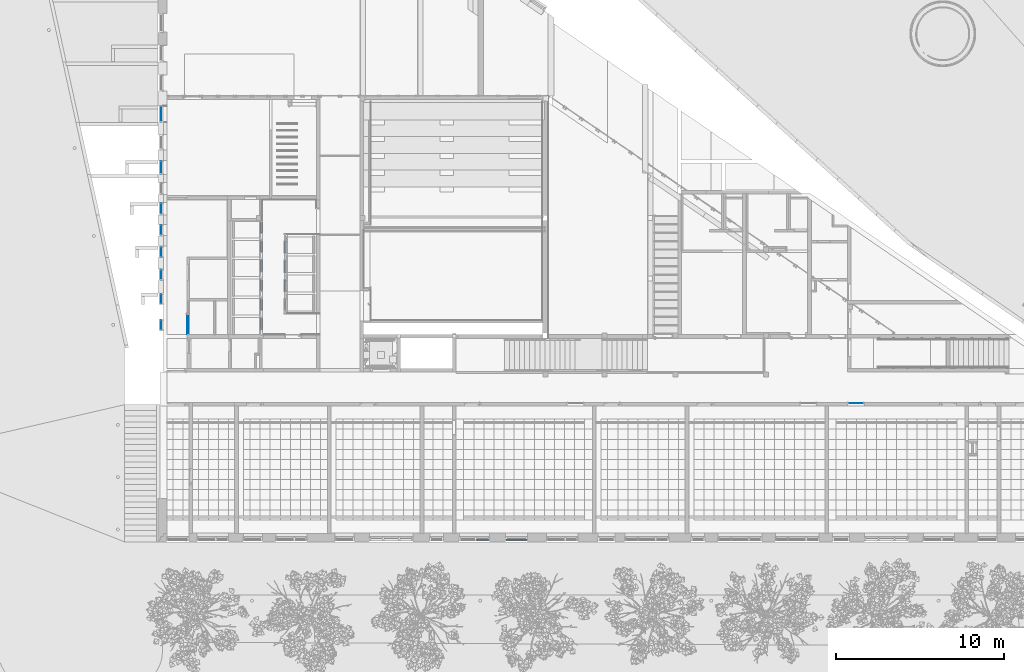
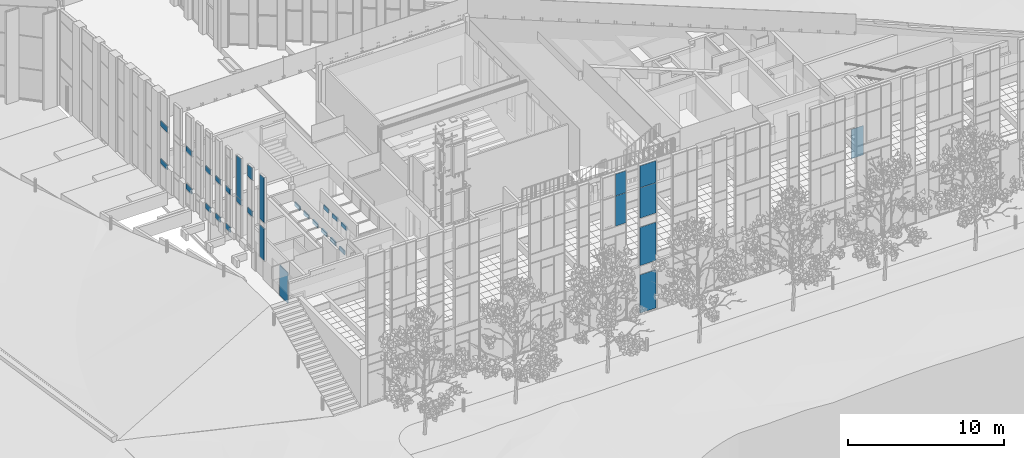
# One storey, part 56 of 246: 33 plates, 14 elements without a shape of their own.
"""IFC2X3 building model written with IfcOpenShell, lengths in millimetres."""

from ifc_helpers import new_model, entity, si_unit, converted_unit, derived_unit, money_unit, direction, frame, origin_with_axes, place, context, subcontext, project, spatial, faceted_brep, source, transform, mapped, material, material_list, type_object, element, aggregate, save


model = new_model("IFC2X3")

# Units and contexts
model_context = context("Model", 3, precision=0.01, world=origin_with_axes(), true_north=direction((0.0, 1.0)))
body_context = subcontext(model_context, "Body", "Model", "MODEL_VIEW")
ifc_project = project(units=[si_unit("LENGTHUNIT", "METRE", prefix="MILLI"), si_unit("AREAUNIT", "SQUARE_METRE"), si_unit("VOLUMEUNIT", "CUBIC_METRE"), converted_unit("PLANEANGLEUNIT", "DEGREE", entity("IfcPlaneAngleMeasure", 0.0174532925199), si_unit("PLANEANGLEUNIT", "RADIAN"), dimensions=[0, 0, 0, 0, 0, 0, 0]), si_unit("SOLIDANGLEUNIT", "STERADIAN"), money_unit("EUR"), converted_unit("TIMEUNIT", "Year", entity("IfcTimeMeasure", 31556926.0), si_unit("TIMEUNIT", "SECOND"), dimensions=[0, 0, 1, 0, 0, 0, 0]), si_unit("MASSUNIT", "GRAM", prefix="KILO"), si_unit("THERMODYNAMICTEMPERATUREUNIT", "DEGREE_CELSIUS"), si_unit("LUMINOUSINTENSITYUNIT", "LUMEN"), si_unit("ENERGYUNIT", "JOULE", prefix="MEGA"), derived_unit("THERMALCONDUCTANCEUNIT", [(si_unit("POWERUNIT", "WATT"), 1), (si_unit("LENGTHUNIT", "METRE"), -1), (si_unit("THERMODYNAMICTEMPERATUREUNIT", "KELVIN"), -1)]), derived_unit("SPECIFICHEATCAPACITYUNIT", [(si_unit("ENERGYUNIT", "JOULE"), 1), (si_unit("MASSUNIT", "GRAM", prefix="KILO"), -1), (si_unit("THERMODYNAMICTEMPERATUREUNIT", "KELVIN"), -1)]), derived_unit("MASSDENSITYUNIT", [(si_unit("MASSUNIT", "GRAM", prefix="KILO"), 1), (si_unit("VOLUMEUNIT", "CUBIC_METRE"), -1)])], contexts=[model_context])

# Site, building, storey
site_placement = place(None, origin_with_axes())
site = spatial("IfcSite", under=ifc_project, at=site_placement, Name="L.Koidula tn 11b", CompositionType="ELEMENT")
building_placement = place(site_placement, origin_with_axes())
building = spatial("IfcBuilding", under=site, at=building_placement, Name="Rakvere Riigigümnaasium", CompositionType="ELEMENT")
storey_placement = place(building_placement, origin_with_axes())
storey = spatial("IfcBuildingStorey", under=building, at=storey_placement, Name="1.korrus 0,00", CompositionType="ELEMENT", Elevation=0.0)

# Curtain wall, plates
curtain_wall_type = type_object("IfcCurtainWallType", Name="Curtain Wall Type", PredefinedType="NOTDEFINED")
curtain_wall_1_placement = place(storey_placement, frame((41170.0073165, 24038.4555472, 1.56205997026e-05), z_axis=(0.0, 0.0, 1.0), x_axis=(1.0, 0.0, 0.0)))
curtain_wall_1 = element("IfcCurtainWall", 1, at=curtain_wall_1_placement, inside=storey, type_object=curtain_wall_type, Name="SUS-01")
ifc_material_1 = material(Name="MDF")
ifc_material_2 = material(Name="Kipsplaat")
ifc_material_3 = material(Name="Klaasvill")
ifc_material_list = material_list([ifc_material_1, ifc_material_2, ifc_material_3])
plate_type_1 = type_object("IfcPlateType", Name="SA-Siseuksesüsteem-Paneel 650 x 300 x 0", PredefinedType="CURTAIN_PANEL")
shared_shape_1 = source(origin_with_axes(), body_context, "Body", "Brep", [
    faceted_brep([(650.0, 300.0, 0.0), (0.0, 300.0, 0.0), (0.0, 300.0, 10.0), (650.0, 300.0, 10.0), (650.0, 0.0, 0.0), (0.0, 0.0, 0.0), (0.0, 0.0, 10.0), (650.0, 0.0, 10.0)], [[[0, 1, 2, 3]], [[0, 4, 5, 1]], [[1, 5, 6, 2]], [[3, 2, 6, 7]], [[4, 0, 3, 7]], [[5, 4, 7, 6]]]),
    faceted_brep([(650.0, 300.0, 12.0), (0.0, 300.0, 12.0), (0.0, 300.0, 25.0), (650.0, 300.0, 25.0), (650.0, 0.0, 12.0), (0.0, 0.0, 12.0), (0.0, 0.0, 25.0), (650.0, 0.0, 25.0)], [[[0, 1, 2, 3]], [[0, 4, 5, 1]], [[1, 5, 6, 2]], [[3, 2, 6, 7]], [[4, 0, 3, 7]], [[5, 4, 7, 6]]]),
    faceted_brep([(650.0, 300.0, 25.0), (0.0, 300.0, 25.0), (0.0, 300.0, 38.0), (650.0, 300.0, 38.0), (650.0, 0.0, 25.0), (0.0, 0.0, 25.0), (0.0, 0.0, 38.0), (650.0, 0.0, 38.0)], [[[0, 1, 2, 3]], [[0, 4, 5, 1]], [[1, 5, 6, 2]], [[3, 2, 6, 7]], [[4, 0, 3, 7]], [[5, 4, 7, 6]]]),
    faceted_brep([(650.0, 300.0, 42.0), (0.0, 300.0, 42.0), (0.0, 300.0, 79.0), (650.0, 300.0, 79.0), (650.0, 0.0, 42.0), (0.0, 0.0, 42.0), (0.0, 0.0, 79.0), (650.0, 0.0, 79.0)], [[[0, 1, 2, 3]], [[0, 4, 5, 1]], [[1, 5, 6, 2]], [[3, 2, 6, 7]], [[4, 0, 3, 7]], [[5, 4, 7, 6]]]),
    faceted_brep([(650.0, 300.0, 84.0), (0.0, 300.0, 84.0), (0.0, 300.0, 92.0), (650.0, 300.0, 92.0), (650.0, 0.0, 84.0), (0.0, 0.0, 84.0), (0.0, 0.0, 92.0), (650.0, 0.0, 92.0)], [[[0, 1, 2, 3]], [[0, 4, 5, 1]], [[1, 5, 6, 2]], [[3, 2, 6, 7]], [[4, 0, 3, 7]], [[5, 4, 7, 6]]]),
])
plate_1_placement = place(curtain_wall_1_placement, frame((0.0, -342.000017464, 2249.99992939), z_axis=(0.0, 0.0, 1.0), x_axis=(0.0, 1.0, 0.0)))
plate_1 = element("IfcPlate", 2, at=plate_1_placement, type_object=plate_type_1, material=ifc_material_list, Name="Panel-SA-Siseuks-023", ObjectType="CURTAIN_PANEL", context=body_context, shape_type="MappedRepresentation", body=[
    mapped(shared_shape_1, transform((325.000017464, 0.0, -150.00000781), x_axis=(-1.0, 0.0, 0.0), y_axis=(0.0, 0.0, 1.0), z_axis=(0.0, 1.0, 0.0))),
])
plate_2_placement = place(curtain_wall_1_placement, frame((0.0, -1472.00003493, 2249.99992939), z_axis=(0.0, 0.0, 1.0), x_axis=(0.0, 1.0, 0.0)))
plate_2 = element("IfcPlate", 3, at=plate_2_placement, type_object=plate_type_1, material=ifc_material_list, Name="Panel-SA-Siseuks-025", ObjectType="CURTAIN_PANEL", context=body_context, shape_type="MappedRepresentation", body=[
    mapped(shared_shape_1, transform((325.0, 0.0, -150.00000781), x_axis=(-1.0, 0.0, 0.0), y_axis=(0.0, 0.0, 1.0), z_axis=(0.0, 1.0, 0.0))),
])
plate_3_placement = place(curtain_wall_1_placement, frame((0.0, -2622.00003493, 2249.99992939), z_axis=(0.0, 0.0, 1.0), x_axis=(0.0, 1.0, 0.0)))
plate_3 = element("IfcPlate", 4, at=plate_3_placement, type_object=plate_type_1, material=ifc_material_list, Name="Panel-SA-Siseuks-027", ObjectType="CURTAIN_PANEL", context=body_context, shape_type="MappedRepresentation", body=[
    mapped(shared_shape_1, transform((325.0, 0.0, -150.00000781), x_axis=(-1.0, 0.0, 0.0), y_axis=(0.0, 0.0, 1.0), z_axis=(0.0, 1.0, 0.0))),
])
plate_4_placement = place(curtain_wall_1_placement, frame((0.0, -3772.00003493, 2249.99992939), z_axis=(0.0, 0.0, 1.0), x_axis=(0.0, 1.0, 0.0)))
plate_4 = element("IfcPlate", 5, at=plate_4_placement, type_object=plate_type_1, material=ifc_material_list, Name="Panel-SA-Siseuks-029", ObjectType="CURTAIN_PANEL", context=body_context, shape_type="MappedRepresentation", body=[
    mapped(shared_shape_1, transform((325.0, 0.0, -150.00000781), x_axis=(-1.0, 0.0, 0.0), y_axis=(0.0, 0.0, 1.0), z_axis=(0.0, 1.0, 0.0))),
])
plate_5_placement = place(curtain_wall_1_placement, frame((0.0, -4922.00003493, 2249.99992939), z_axis=(0.0, 0.0, 1.0), x_axis=(0.0, 1.0, 0.0)))
plate_5 = element("IfcPlate", 6, at=plate_5_placement, type_object=plate_type_1, material=ifc_material_list, Name="Panel-SA-Siseuks-031", ObjectType="CURTAIN_PANEL", context=body_context, shape_type="MappedRepresentation", body=[
    mapped(shared_shape_1, transform((325.0, 0.0, -150.00000781), x_axis=(-1.0, 0.0, 0.0), y_axis=(0.0, 0.0, 1.0), z_axis=(0.0, 1.0, 0.0))),
])
plate_6_placement = place(curtain_wall_1_placement, frame((0.0, -6072.00003493, 2249.99992939), z_axis=(0.0, 0.0, 1.0), x_axis=(0.0, 1.0, 0.0)))
plate_6 = element("IfcPlate", 7, at=plate_6_placement, type_object=plate_type_1, material=ifc_material_list, Name="Panel-SA-Siseuks-033", ObjectType="CURTAIN_PANEL", context=body_context, shape_type="MappedRepresentation", body=[
    mapped(shared_shape_1, transform((325.0, 0.0, -150.00000781), x_axis=(-1.0, 0.0, 0.0), y_axis=(0.0, 0.0, 1.0), z_axis=(0.0, 1.0, 0.0))),
])
aggregate(curtain_wall_1, [plate_1, plate_2, plate_3, plate_4, plate_5, plate_6])

curtain_wall_2_placement = place(storey_placement, frame((42519.9999626, 19079.4634323, 0.0), z_axis=(0.0, 0.0, 1.0), x_axis=(1.0, 0.0, 0.0)))
curtain_wall_2 = element("IfcCurtainWall", 8, at=curtain_wall_2_placement, inside=storey, type_object=curtain_wall_type, Name="SUS-02")
plate_7_placement = place(curtain_wall_2_placement, frame((0.0, 1145.00791999, 2249.99998859), z_axis=(0.0, 0.0, 1.0), x_axis=(0.0, -1.0, 0.0)))
plate_7 = element("IfcPlate", 9, at=plate_7_placement, type_object=plate_type_1, material=ifc_material_list, Name="Panel-SA-Siseuks-024", ObjectType="CURTAIN_PANEL", context=body_context, shape_type="MappedRepresentation", body=[
    mapped(shared_shape_1, transform((325.0, 0.0, -150.0), x_axis=(-1.0, 0.0, 0.0), y_axis=(0.0, 0.0, 1.0), z_axis=(0.0, 1.0, 0.0))),
])
plate_8_placement = place(curtain_wall_2_placement, frame((0.0, 2285.00791999, 2249.99998859), z_axis=(0.0, 0.0, 1.0), x_axis=(0.0, -1.0, 0.0)))
plate_8 = element("IfcPlate", 10, at=plate_8_placement, type_object=plate_type_1, material=ifc_material_list, Name="Panel-SA-Siseuks-026", ObjectType="CURTAIN_PANEL", context=body_context, shape_type="MappedRepresentation", body=[
    mapped(shared_shape_1, transform((325.0, 0.0, -150.0), x_axis=(-1.0, 0.0, 0.0), y_axis=(0.0, 0.0, 1.0), z_axis=(0.0, 1.0, 0.0))),
])
plate_9_placement = place(curtain_wall_2_placement, frame((0.0, 3425.00791999, 2249.99998859), z_axis=(0.0, 0.0, 1.0), x_axis=(0.0, -1.0, 0.0)))
plate_9 = element("IfcPlate", 11, at=plate_9_placement, type_object=plate_type_1, material=ifc_material_list, Name="Panel-SA-Siseuks-028", ObjectType="CURTAIN_PANEL", context=body_context, shape_type="MappedRepresentation", body=[
    mapped(shared_shape_1, transform((325.0, 0.0, -150.0), x_axis=(-1.0, 0.0, 0.0), y_axis=(0.0, 0.0, 1.0), z_axis=(0.0, 1.0, 0.0))),
])
aggregate(curtain_wall_2, [plate_7, plate_8, plate_9])

curtain_wall_3_placement = place(storey_placement, frame((35156.0871538, 22235.4555038, 3003.0), z_axis=(0.0, 0.0, 1.0), x_axis=(1.0, 0.0, 0.0)))
curtain_wall_3 = element("IfcCurtainWall", 12, at=curtain_wall_3_placement, inside=storey, type_object=curtain_wall_type, Name="KLF-04-07")
ifc_material_4 = material(Name="Klaaspakett- taustvärvitud klaas 3x")
plate_type_2 = type_object("IfcPlateType", Name="576 x 421 x 54", PredefinedType="CURTAIN_PANEL")
shared_shape_2 = source(origin_with_axes(), body_context, "Body", "Brep", [
    faceted_brep([(633.000011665, 432.999997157, -27.0), (56.9999405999, 432.999997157, -27.0), (56.9999405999, 432.999997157, 27.0), (633.000011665, 432.999997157, 27.0), (633.000011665, 12.0000043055, -27.0), (56.9999405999, 12.0000043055, -27.0), (56.9999405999, 12.0000043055, 27.0), (633.000011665, 12.0000043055, 27.0)], [[[0, 1, 2, 3]], [[0, 4, 5, 1]], [[1, 5, 6, 2]], [[3, 2, 6, 7]], [[4, 0, 3, 7]], [[5, 4, 7, 6]]]),
])
plate_10_placement = place(curtain_wall_3_placement, frame((0.0, 1.09010507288e-05, 519.50007113), z_axis=(0.0, 0.0, 1.0), x_axis=(0.0, 1.0, 0.0)))
plate_10 = element("IfcPlate", 13, at=plate_10_placement, type_object=plate_type_2, material=ifc_material_4, Name="KLF-04-07-A1", ObjectType="CURTAIN_PANEL", context=body_context, shape_type="MappedRepresentation", body=[
    mapped(shared_shape_2, transform((344.999976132, 0.0, -222.5), x_axis=(-1.0, 0.0, 0.0), y_axis=(0.0, 0.0, 1.0), z_axis=(0.0, 1.0, 0.0))),
])
plate_11_placement = place(curtain_wall_3_placement, frame((0.0, -1.61314979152e-05, 3464.50007113), z_axis=(0.0, 0.0, 1.0), x_axis=(0.0, 1.0, 0.0)))
plate_11 = element("IfcPlate", 14, at=plate_11_placement, type_object=plate_type_2, material=ifc_material_4, Name="KLF-04-07-A2", ObjectType="CURTAIN_PANEL", context=body_context, shape_type="MappedRepresentation", body=[
    mapped(shared_shape_2, transform((345.000003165, 0.0, -222.5), x_axis=(-1.0, 0.0, 0.0), y_axis=(0.0, 0.0, 1.0), z_axis=(0.0, 1.0, 0.0))),
])
aggregate(curtain_wall_3, [plate_10, plate_11])

# Curtain wall, plate
curtain_wall_4_placement = place(storey_placement, frame((35156.0871538, 20885.4555022, 3234.99992887), z_axis=(0.0, 0.0, 1.0), x_axis=(1.0, 0.0, 0.0)))
curtain_wall_4 = element("IfcCurtainWall", 15, at=curtain_wall_4_placement, inside=storey, type_object=curtain_wall_type, Name="KLF-04-08")
plate_12_placement = place(curtain_wall_4_placement, frame((0.0, 0.0, 3232.50007113), z_axis=(0.0, 0.0, 1.0), x_axis=(0.0, 1.0, 0.0)))
plate_12 = element("IfcPlate", 16, at=plate_12_placement, type_object=plate_type_2, material=ifc_material_4, Name="KLF-04-08-Klaasid", ObjectType="CURTAIN_PANEL", context=body_context, shape_type="MappedRepresentation", body=[
    mapped(shared_shape_2, transform((345.000023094, 0.0, -222.5), x_axis=(-1.0, 0.0, 0.0), y_axis=(0.0, 0.0, 1.0), z_axis=(0.0, 1.0, 0.0))),
])

curtain_wall_5_placement = place(storey_placement, frame((35156.0871538, 19435.4554934, 3468.0), z_axis=(0.0, 0.0, 1.0), x_axis=(1.0, 0.0, 0.0)))
curtain_wall_5 = element("IfcCurtainWall", 17, at=curtain_wall_5_placement, inside=storey, type_object=curtain_wall_type, Name="KLF-04-09")
plate_13_placement = place(curtain_wall_5_placement, frame((0.0, 2.3627606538e-05, 2999.50007113), z_axis=(0.0, 0.0, 1.0), x_axis=(0.0, 1.0, 0.0)))
plate_13 = element("IfcPlate", 18, at=plate_13_placement, type_object=plate_type_2, material=ifc_material_4, Name="KLF-04-09-Klaasid", ObjectType="CURTAIN_PANEL", context=body_context, shape_type="MappedRepresentation", body=[
    mapped(shared_shape_2, transform((345.000008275, 0.0, -222.5), x_axis=(-1.0, 0.0, 0.0), y_axis=(0.0, 0.0, 1.0), z_axis=(0.0, 1.0, 0.0))),
])

curtain_wall_6_placement = place(storey_placement, frame((76489.9798826, 13240.4508952, 0.0), z_axis=(0.0, 0.0, 1.0), x_axis=(1.0, 0.0, 0.0)))
curtain_wall_6 = element("IfcCurtainWall", 19, at=curtain_wall_6_placement, inside=storey, type_object=curtain_wall_type, Name="SKLF-09")
ifc_material_5 = material(Name="VKR-05_Klaas")
plate_type_3 = type_object("IfcPlateType", Name="Distinct Panel 900 x 2300 x 10", PredefinedType="CURTAIN_PANEL")
shared_shape_3 = source(origin_with_axes(), body_context, "Body", "Brep", [
    faceted_brep([(-950.019788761, 2350.0, -11.0), (-950.019788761, 2350.0, 1.0), (-50.0197887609, 2350.0, 1.0), (-50.0197887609, 2350.0, -11.0), (-950.019788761, 50.0, -11.0), (-950.019788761, 50.0, 1.0), (-50.0197887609, 50.0, 1.0), (-50.0197887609, 50.0, -11.0)], [[[0, 1, 2, 3]], [[4, 5, 1, 0]], [[1, 5, 6, 2]], [[3, 2, 6, 7]], [[0, 3, 7, 4]], [[7, 6, 5, 4]]]),
])
plate_14_placement = place(curtain_wall_6_placement, frame((0.0, 0.0, 1200.0), z_axis=(0.0, 0.0, 1.0), x_axis=(-1.0, 0.0, 0.0)))
plate_14 = element("IfcPlate", 20, at=plate_14_placement, type_object=plate_type_3, material=ifc_material_5, Name="SKLF-17-klaas", ObjectType="CURTAIN_PANEL", context=body_context, shape_type="MappedRepresentation", body=[
    mapped(shared_shape_3, transform((500.019791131, 0.0, -1200.0), x_axis=(1.0, 0.0, 0.0), y_axis=(0.0, 0.0, 1.0), z_axis=(0.0, -1.0, 0.0))),
])
aggregate(curtain_wall_6, [plate_14])

# Curtain wall, plates
curtain_wall_7_placement = place(storey_placement, frame((35156.0871538, 30435.4555151, 1604.94683277), z_axis=(0.0, 0.0, 1.0), x_axis=(1.0, 0.0, 0.0)))
curtain_wall_7 = element("IfcCurtainWall", 21, at=curtain_wall_7_placement, inside=storey, type_object=curtain_wall_type, Name="KLF-04-01")
plate_type_4 = type_object("IfcPlateType", Name="876 x 421 x 54", PredefinedType="CURTAIN_PANEL")
shared_shape_4 = source(origin_with_axes(), body_context, "Body", "Brep", [
    faceted_brep([(982.872215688, 432.999996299, -27.0), (106.872086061, 432.999996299, -27.0), (106.872086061, 432.999996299, 27.0), (982.872215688, 432.999996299, 27.0), (982.872215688, 12.0000002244, -27.0), (106.872086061, 12.0000002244, -27.0), (106.872086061, 12.0000002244, 27.0), (982.872215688, 12.0000002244, 27.0)], [[[0, 1, 2, 3]], [[0, 4, 5, 1]], [[1, 5, 6, 2]], [[3, 2, 6, 7]], [[4, 0, 3, 7]], [[5, 4, 7, 6]]]),
])
plate_15_placement = place(curtain_wall_7_placement, frame((0.0, 0.0, 1917.50006988), z_axis=(0.0, 0.0, 1.0), x_axis=(0.0, 1.0, 0.0)))
plate_15 = element("IfcPlate", 22, at=plate_15_placement, type_object=plate_type_4, material=ifc_material_4, Name="KLF-04-01-Klaasid", ObjectType="CURTAIN_PANEL", context=body_context, shape_type="MappedRepresentation", body=[
    mapped(shared_shape_4, transform((544.872150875, 0.0, -222.5), x_axis=(-1.0, 0.0, 0.0), y_axis=(0.0, 0.0, 1.0), z_axis=(0.0, 1.0, 0.0))),
])
plate_16_placement = place(curtain_wall_7_placement, frame((0.0, -5.43342437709e-06, 4862.50006988), z_axis=(0.0, 0.0, 1.0), x_axis=(0.0, 1.0, 0.0)))
plate_16 = element("IfcPlate", 23, at=plate_16_placement, type_object=plate_type_4, material=ifc_material_4, Name="KLF-04-01-Klaasid", ObjectType="CURTAIN_PANEL", context=body_context, shape_type="MappedRepresentation", body=[
    mapped(shared_shape_4, transform((544.872156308, 0.0, -222.5), x_axis=(-1.0, 0.0, 0.0), y_axis=(0.0, 0.0, 1.0), z_axis=(0.0, 1.0, 0.0))),
])
aggregate(curtain_wall_7, [plate_15, plate_16])

curtain_wall_8_placement = place(storey_placement, frame((35156.0871538, 27260.4554897, 2070.0), z_axis=(0.0, 0.0, 1.0), x_axis=(1.0, 0.0, 0.0)))
curtain_wall_8 = element("IfcCurtainWall", 24, at=curtain_wall_8_placement, inside=storey, type_object=curtain_wall_type, Name="KLF-04-03")
plate_type_5 = type_object("IfcPlateType", Name="726 x 421 x 54", PredefinedType="CURTAIN_PANEL")
shared_shape_5 = source(origin_with_axes(), body_context, "Body", "Brep", [
    faceted_brep([(883.000114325, 432.999995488, -27.0), (157.000121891, 432.999995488, -27.0), (157.000121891, 432.999995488, 27.0), (883.000114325, 432.999995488, 27.0), (883.000114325, 11.9999998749, -27.0), (157.000121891, 11.9999998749, -27.0), (157.000121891, 11.9999998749, 27.0), (883.000114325, 11.9999998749, 27.0)], [[[0, 1, 2, 3]], [[0, 4, 5, 1]], [[1, 5, 6, 2]], [[3, 2, 6, 7]], [[4, 0, 3, 7]], [[5, 4, 7, 6]]]),
])
plate_17_placement = place(curtain_wall_8_placement, frame((0.0, 0.0, 1452.50005204), z_axis=(0.0, 0.0, 1.0), x_axis=(0.0, 1.0, 0.0)))
plate_17 = element("IfcPlate", 25, at=plate_17_placement, type_object=plate_type_5, material=ifc_material_4, Name="KLF-04-03-Klaasid", ObjectType="CURTAIN_PANEL", context=body_context, shape_type="MappedRepresentation", body=[
    mapped(shared_shape_5, transform((520.000118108, 0.0, -222.5), x_axis=(-1.0, 0.0, 0.0), y_axis=(0.0, 0.0, 1.0), z_axis=(0.0, 1.0, 0.0))),
])
plate_18_placement = place(curtain_wall_8_placement, frame((0.0, -8.43357383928e-07, 4397.50005204), z_axis=(0.0, 0.0, 1.0), x_axis=(0.0, 1.0, 0.0)))
plate_18 = element("IfcPlate", 26, at=plate_18_placement, type_object=plate_type_5, material=ifc_material_4, Name="KLF-04-03-Klaasid", ObjectType="CURTAIN_PANEL", context=body_context, shape_type="MappedRepresentation", body=[
    mapped(shared_shape_5, transform((520.000118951, 0.0, -222.5), x_axis=(-1.0, 0.0, 0.0), y_axis=(0.0, 0.0, 1.0), z_axis=(0.0, 1.0, 0.0))),
])
aggregate(curtain_wall_8, [plate_17, plate_18])

curtain_wall_9_placement = place(storey_placement, frame((35156.0871538, 24810.4554726, 2540.0), z_axis=(0.0, 0.0, 1.0), x_axis=(1.0, 0.0, 0.0)))
curtain_wall_9 = element("IfcCurtainWall", 27, at=curtain_wall_9_placement, inside=storey, type_object=curtain_wall_type, Name="KLF-04-05")
plate_type_6 = type_object("IfcPlateType", Name="626 x 421 x 54", PredefinedType="CURTAIN_PANEL")
shared_shape_6 = source(origin_with_axes(), body_context, "Body", "Brep", [
    faceted_brep([(783.00005934, 432.999998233, -27.0), (157.000048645, 432.999998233, -27.0), (157.000048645, 432.999998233, 27.0), (783.00005934, 432.999998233, 27.0), (783.00005934, 12.000004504, -27.0), (157.000048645, 12.000004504, -27.0), (157.000048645, 12.000004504, 27.0), (783.00005934, 12.000004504, 27.0)], [[[0, 1, 2, 3]], [[0, 4, 5, 1]], [[1, 5, 6, 2]], [[3, 2, 6, 7]], [[4, 0, 3, 7]], [[5, 4, 7, 6]]]),
])
plate_19_placement = place(curtain_wall_9_placement, frame((0.0, 0.0, 982.50005204), z_axis=(0.0, 0.0, 1.0), x_axis=(0.0, 1.0, 0.0)))
plate_19 = element("IfcPlate", 28, at=plate_19_placement, type_object=plate_type_6, material=ifc_material_4, Name="KLF-04-05-Klaasid", ObjectType="CURTAIN_PANEL", context=body_context, shape_type="MappedRepresentation", body=[
    mapped(shared_shape_6, transform((470.000053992, 0.0, -222.5), x_axis=(-1.0, 0.0, 0.0), y_axis=(0.0, 0.0, 1.0), z_axis=(0.0, 1.0, 0.0))),
])
plate_20_placement = place(curtain_wall_9_placement, frame((0.0, 0.0, 3927.50005204), z_axis=(0.0, 0.0, 1.0), x_axis=(0.0, 1.0, 0.0)))
plate_20 = element("IfcPlate", 29, at=plate_20_placement, type_object=plate_type_6, material=ifc_material_4, Name="KLF-04-05-Klaasid", ObjectType="CURTAIN_PANEL", context=body_context, shape_type="MappedRepresentation", body=[
    mapped(shared_shape_6, transform((470.000053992, 0.0, -222.5), x_axis=(-1.0, 0.0, 0.0), y_axis=(0.0, 0.0, 1.0), z_axis=(0.0, 1.0, 0.0))),
])
aggregate(curtain_wall_9, [plate_19, plate_20])

curtain_wall_10_placement = place(storey_placement, frame((35156.0871538, 23535.4555553, 2770.0), z_axis=(0.0, 0.0, 1.0), x_axis=(1.0, 0.0, 0.0)))
curtain_wall_10 = element("IfcCurtainWall", 30, at=curtain_wall_10_placement, inside=storey, type_object=curtain_wall_type, Name="KLF-04-06")
shared_shape_7 = source(origin_with_axes(), body_context, "Body", "Brep", [
    faceted_brep([(732.999923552, 432.99999986, -27.0), (156.999984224, 432.99999986, -27.0), (156.999984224, 432.99999986, 27.0), (732.999923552, 432.99999986, 27.0), (732.999884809, 12.0000019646, -27.0), (156.999984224, 12.0000019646, -27.0), (156.999984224, 12.0000019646, 27.0), (732.999884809, 12.0000019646, 27.0)], [[[0, 1, 2, 3]], [[0, 4, 5, 1]], [[1, 5, 6, 2]], [[3, 2, 6, 7]], [[4, 0, 3, 7]], [[5, 4, 7, 6]]]),
])
plate_21_placement = place(curtain_wall_10_placement, frame((0.0, -1.1309200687e-05, 3697.50005204), z_axis=(0.0, 0.0, 1.0), x_axis=(0.0, 1.0, 0.0)))
plate_21 = element("IfcPlate", 31, at=plate_21_placement, type_object=plate_type_2, material=ifc_material_4, Name="KLF-04-06-Klaasid", ObjectType="CURTAIN_PANEL", context=body_context, shape_type="MappedRepresentation", body=[
    mapped(shared_shape_7, transform((444.999942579, 0.0, -222.5), x_axis=(-1.0, 0.0, 0.0), y_axis=(0.0, 0.0, 1.0), z_axis=(0.0, 1.0, 0.0))),
])
plate_22_placement = place(curtain_wall_10_placement, frame((0.0, 0.0, 752.50005204), z_axis=(0.0, 0.0, 1.0), x_axis=(0.0, 1.0, 0.0)))
plate_22 = element("IfcPlate", 32, at=plate_22_placement, type_object=plate_type_2, material=ifc_material_4, Name="KLF-04-06-Klaasid", ObjectType="CURTAIN_PANEL", context=body_context, shape_type="MappedRepresentation", body=[
    mapped(shared_shape_7, transform((444.99993127, 0.0, -222.5), x_axis=(-1.0, 0.0, 0.0), y_axis=(0.0, 0.0, 1.0), z_axis=(0.0, 1.0, 0.0))),
])
aggregate(curtain_wall_10, [plate_21, plate_22])

curtain_wall_11_placement = place(storey_placement, frame((54287.5000684, 5111.45334637, -1.61944652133e-05), z_axis=(0.0, 0.0, 1.0), x_axis=(1.0, 0.0, 0.0)))
curtain_wall_11 = element("IfcCurtainWall", 33, at=curtain_wall_11_placement, inside=storey, type_object=curtain_wall_type, Name="KLF-05-2B")
ifc_material_6 = material(Name="Klaaspakett 3x")
plate_type_7 = type_object("IfcPlateType", Name="Distinct Panel 756 x 2351 x 65", PredefinedType="CURTAIN_PANEL")
plate_23_placement = place(curtain_wall_11_placement, frame((-5.86924642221e-06, 0.0, 8652.5), z_axis=(0.0, 0.0, 1.0), x_axis=(-1.0, 0.0, 0.0)))
plate_23 = element("IfcPlate", 34, at=plate_23_placement, type_object=plate_type_7, material=ifc_material_6, Name="KLF-05-2B-Klaasid", ObjectType="CURTAIN_PANEL", context=body_context, shape_type="Brep", body=[
    faceted_brep([(-365.500037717, -32.5, 1175.50000149), (390.500045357, -32.5, 1175.50000149), (390.500045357, 32.5, 1175.50000149), (-365.500037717, 32.5, 1175.50000149), (-365.500073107, -32.5, -1175.50000149), (390.500045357, -32.5, -1175.50000149), (390.500045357, 32.5, -1175.50000149), (-365.500073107, 32.5, -1175.50000149)], [[[0, 1, 2, 3]], [[0, 4, 5, 1]], [[1, 5, 6, 2]], [[3, 2, 6, 7]], [[4, 0, 3, 7]], [[5, 4, 7, 6]]]),
])
plate_type_8 = type_object("IfcPlateType", Name="Distinct Panel 756 x 1701 x 65", PredefinedType="CURTAIN_PANEL")
plate_24_placement = place(curtain_wall_11_placement, frame((-1.17384786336e-05, 0.0, 10714.999916), z_axis=(0.0, 0.0, 1.0), x_axis=(-1.0, 0.0, 0.0)))
plate_24 = element("IfcPlate", 35, at=plate_24_placement, type_object=plate_type_8, material=ifc_material_6, Name="KLF-05-2B-Klaasid", ObjectType="CURTAIN_PANEL", context=body_context, shape_type="Brep", body=[
    faceted_brep([(-365.500038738, -32.5, 837.999913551), (390.500029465, -32.5, 837.999913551), (390.500029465, 32.5, 837.999913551), (-365.500038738, 32.5, 837.999913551), (-365.500038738, -32.5, -862.999907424), (390.500029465, -32.5, -862.999907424), (390.500029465, 32.5, -862.999907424), (-365.500038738, 32.5, -862.999907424)], [[[0, 1, 2, 3]], [[0, 4, 5, 1]], [[1, 5, 6, 2]], [[3, 2, 6, 7]], [[4, 0, 3, 7]], [[5, 4, 7, 6]]]),
])
aggregate(curtain_wall_11, [plate_23, plate_24])

curtain_wall_12_placement = place(storey_placement, frame((35156.0871538, 17885.4554584, 3720.0), z_axis=(0.0, 0.0, 1.0), x_axis=(1.0, 0.0, 0.0)))
curtain_wall_12 = element("IfcCurtainWall", 36, at=curtain_wall_12_placement, inside=storey, type_object=curtain_wall_type, Name="KLF-04-10")
plate_type_9 = type_object("IfcPlateType", Name="Distinct Panel 576 x 3460 x 54", PredefinedType="CURTAIN_PANEL")
plate_25_placement = place(curtain_wall_12_placement, frame((0.0, 0.0, 4749.61650411), z_axis=(0.0, 0.0, 1.0), x_axis=(0.0, 1.0, 0.0)))
plate_25 = element("IfcPlate", 37, at=plate_25_placement, type_object=plate_type_9, material=ifc_material_6, Name="KLF-04-10-Klaasid", ObjectType="CURTAIN_PANEL", context=body_context, shape_type="Brep", body=[
    faceted_brep([(-287.999962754, -27.0, 1762.68259218), (287.99997898, -27.0, 1702.14257745), (287.99997898, 27.0, 1702.14257745), (-287.999962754, 27.0, 1762.68259218), (-287.999962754, -27.0, -1757.61641644), (287.999925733, -27.0, -1757.61641644), (287.999925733, 27.0, -1757.61641644), (-287.999962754, 27.0, -1757.61641644)], [[[0, 1, 2, 3]], [[0, 4, 5, 1]], [[1, 5, 6, 2]], [[3, 2, 6, 7]], [[4, 0, 3, 7]], [[5, 4, 7, 6]]]),
])
plate_type_10 = type_object("IfcPlateType", Name="Distinct Panel 576 x 2476 x 54", PredefinedType="CURTAIN_PANEL")
plate_26_placement = place(curtain_wall_12_placement, frame((0.0, 8.12072187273e-06, 1262.50003557), z_axis=(0.0, 0.0, 1.0), x_axis=(0.0, 1.0, 0.0)))
plate_26 = element("IfcPlate", 38, at=plate_26_placement, type_object=plate_type_10, material=ifc_material_6, Name="KLF-04-10-Klaasid", ObjectType="CURTAIN_PANEL", context=body_context, shape_type="Brep", body=[
    faceted_brep([(-287.999981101, -27.0, 1250.50003187), (287.99993268, -27.0, 1250.50003187), (287.99993268, 27.0, 1250.50003187), (-287.999981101, 27.0, 1250.50003187), (-287.999981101, -27.0, -1225.5000524), (288.000045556, -27.0, -1225.5000524), (288.000045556, 27.0, -1225.5000524), (-287.999981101, 27.0, -1225.5000524)], [[[0, 1, 2, 3]], [[0, 4, 5, 1]], [[1, 5, 6, 2]], [[3, 2, 6, 7]], [[4, 0, 3, 7]], [[5, 4, 7, 6]]]),
])
aggregate(curtain_wall_12, [plate_25, plate_26])

# Plate
plate_type_11 = type_object("IfcPlateType", Name="Distinct Panel 576 x 3154 x 54", PredefinedType="CURTAIN_PANEL")
plate_27_placement = place(curtain_wall_4_placement, frame((0.0, 0.000106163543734, 5071.96018388), z_axis=(0.0, 0.0, 1.0), x_axis=(0.0, 1.0, 0.0)))
plate_27 = element("IfcPlate", 39, at=plate_27_placement, type_object=plate_type_11, material=ifc_material_6, Name="KLF-04-08-Klaasid", ObjectType="CURTAIN_PANEL", context=body_context, shape_type="Brep", body=[
    faceted_brep([(-287.999732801, -27.0, 1610.02634705), (287.999937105, -27.0, 1549.48627861), (287.999937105, 27.0, 1549.48627861), (-287.999732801, 27.0, 1610.02634705), (-288.000073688, -27.0, -1604.96009224), (287.999888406, -27.0, -1604.96009224), (287.999888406, 27.0, -1604.96009224), (-288.000073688, 27.0, -1604.96009224)], [[[0, 1, 2, 3]], [[0, 4, 5, 1]], [[1, 5, 6, 2]], [[3, 2, 6, 7]], [[4, 0, 3, 7]], [[5, 4, 7, 6]]]),
])

aggregate(curtain_wall_4, [plate_12, plate_27])

plate_type_12 = type_object("IfcPlateType", Name="Distinct Panel 576 x 907 x 54", PredefinedType="CURTAIN_PANEL")
plate_28_placement = place(curtain_wall_5_placement, frame((0.0, 0.0, 6115.16073995), z_axis=(0.0, 0.0, 1.0), x_axis=(0.0, 1.0, 0.0)))
plate_28 = element("IfcPlate", 40, at=plate_28_placement, type_object=plate_type_12, material=ifc_material_6, Name="KLF-04-09-Klaasid", ObjectType="CURTAIN_PANEL", context=body_context, shape_type="Brep", body=[
    faceted_brep([(-288.000044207, -27.0, 486.226902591), (288.000017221, -27.0, 425.686814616), (288.000017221, 27.0, 425.686814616), (-288.000044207, 27.0, 486.226902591), (-288.000044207, -27.0, -481.160665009), (288.000078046, -27.0, -481.160665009), (288.000078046, 27.0, -481.160665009), (-288.000044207, 27.0, -481.160665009)], [[[0, 1, 2, 3]], [[0, 4, 5, 1]], [[1, 5, 6, 2]], [[3, 2, 6, 7]], [[4, 0, 3, 7]], [[5, 4, 7, 6]]]),
])

aggregate(curtain_wall_5, [plate_28, plate_13])

# Curtain wall, plates
curtain_wall_13_placement = place(storey_placement, frame((56300.0000472, 5111.45334637, -1.61944652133e-05), z_axis=(0.0, 0.0, 1.0), x_axis=(1.0, 0.0, 0.0)))
curtain_wall_13 = element("IfcCurtainWall", 41, at=curtain_wall_13_placement, inside=storey, type_object=curtain_wall_type, Name="KLF-05-1E")
ifc_material_7 = material(Name="Klaaspakett 3x ribikardinatega")
plate_type_13 = type_object("IfcPlateType", Name="Distinct Panel 1206 x 2351 x 65", PredefinedType="CURTAIN_PANEL")
plate_29_placement = place(curtain_wall_13_placement, frame((0.0, 0.0, 8652.5), z_axis=(0.0, 0.0, 1.0), x_axis=(-1.0, 0.0, 0.0)))
plate_29 = element("IfcPlate", 42, at=plate_29_placement, type_object=plate_type_13, material=ifc_material_7, Name="KLF-05-4A-Klaasid", ObjectType="CURTAIN_PANEL", context=body_context, shape_type="Brep", body=[
    faceted_brep([(-602.999996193, -32.5, 1175.50000149), (603.000066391, -32.5, 1175.50000149), (603.000066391, 32.5, 1175.50000149), (-602.999996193, 32.5, 1175.50000149), (-603.000102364, -32.5, -1175.50000149), (603.000066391, -32.5, -1175.50000149), (603.000066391, 32.5, -1175.50000149), (-603.000102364, 32.5, -1175.50000149)], [[[0, 1, 2, 3]], [[0, 4, 5, 1]], [[1, 5, 6, 2]], [[3, 2, 6, 7]], [[4, 0, 3, 7]], [[5, 4, 7, 6]]]),
])
plate_type_14 = type_object("IfcPlateType", Name="Distinct Panel 1206 x 2991 x 65", PredefinedType="CURTAIN_PANEL")
plate_30_placement = place(curtain_wall_13_placement, frame((1.86863076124e-05, 0.0, 5252.5), z_axis=(0.0, 0.0, 1.0), x_axis=(-1.0, 0.0, 0.0)))
plate_30 = element("IfcPlate", 43, at=plate_30_placement, type_object=plate_type_14, material=ifc_material_7, Name="KLF-05-4A-Klaasid", ObjectType="CURTAIN_PANEL", context=body_context, shape_type="Brep", body=[
    faceted_brep([(-603.000047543, -32.5, 1495.49998659), (603.000087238, -32.5, 1495.49998659), (603.000087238, 32.5, 1495.49998659), (-603.000047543, 32.5, 1495.49998659), (-603.000047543, -32.5, -1495.49998659), (603.000087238, -32.5, -1495.49998659), (603.000087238, 32.5, -1495.49998659), (-603.000047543, 32.5, -1495.49998659)], [[[0, 1, 2, 3]], [[0, 4, 5, 1]], [[1, 5, 6, 2]], [[3, 2, 6, 7]], [[4, 0, 3, 7]], [[5, 4, 7, 6]]]),
])
plate_type_15 = type_object("IfcPlateType", Name="Distinct Panel 1206 x 628 x 65", PredefinedType="CURTAIN_PANEL")
plate_31_placement = place(curtain_wall_13_placement, frame((1.86863147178e-05, 0.0, 1813.33333333), z_axis=(0.0, 0.0, 1.0), x_axis=(-1.0, 0.0, 0.0)))
plate_31 = element("IfcPlate", 44, at=plate_31_placement, type_object=plate_type_15, material=ifc_material_7, Name="KLF-05-4A-Klaasid", ObjectType="CURTAIN_PANEL", context=body_context, shape_type="Brep", body=[
    faceted_brep([(-603.000062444, -32.5, 1214.66667382), (603.000056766, -32.5, 1214.66667382), (603.000056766, 32.5, 1214.66667382), (-603.000062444, 32.5, 1214.66667382), (-603.000062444, -32.5, 586.66668574), (-603.000062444, -32.5, -1776.33332141), (603.000056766, -32.5, -1776.33332141), (603.000056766, -32.5, 586.66668574), (603.000056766, 32.5, 586.66668574), (603.000056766, 32.5, -1776.33332141), (-603.000062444, 32.5, -1776.33332141), (-603.000062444, 32.5, 586.66668574)], [[[0, 1, 2, 3]], [[0, 4, 5, 6, 7, 1]], [[1, 7, 8, 2]], [[3, 2, 8, 9, 10, 11]], [[4, 0, 3, 11]], [[5, 4, 11, 10]], [[6, 5, 10, 9]], [[7, 6, 9, 8]]]),
])
plate_type_16 = type_object("IfcPlateType", Name="Distinct Panel 1206 x 1701 x 65", PredefinedType="CURTAIN_PANEL")
plate_32_placement = place(curtain_wall_13_placement, frame((-5.8329874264e-06, 0.0, 10715.0000206), z_axis=(0.0, 0.0, 1.0), x_axis=(-1.0, 0.0, 0.0)))
plate_32 = element("IfcPlate", 45, at=plate_32_placement, type_object=plate_type_16, material=ifc_material_7, Name="KLF-05-0A-Klaasid", ObjectType="CURTAIN_PANEL", context=body_context, shape_type="Brep", body=[
    faceted_brep([(-603.000064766, -32.5, 838.000013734), (603.000037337, -32.5, 838.000013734), (603.000037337, 32.5, 838.000013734), (-603.000064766, 32.5, 838.000013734), (-603.000012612, -32.5, -863.000010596), (603.000037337, -32.5, -863.000010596), (603.000037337, 32.5, -863.000010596), (-603.000012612, 32.5, -863.000010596)], [[[0, 1, 2, 3]], [[0, 4, 5, 1]], [[1, 5, 6, 2]], [[3, 2, 6, 7]], [[4, 0, 3, 7]], [[5, 4, 7, 6]]]),
])
aggregate(curtain_wall_13, [plate_29, plate_30, plate_31, plate_32])

# Curtain wall, plate
curtain_wall_14_placement = place(storey_placement, frame((36749.0000697, 18870.4397072, 0.0), z_axis=(0.0, 0.0, 1.0), x_axis=(1.0, 0.0, 0.0)))
curtain_wall_14 = element("IfcCurtainWall", 46, at=curtain_wall_14_placement, inside=storey, type_object=curtain_wall_type, Name="SKLF-06")
plate_type_17 = type_object("IfcPlateType", Name="Siseklaasfassaad - Klaas-Doubleline30 1095 x 2370 x 17", PredefinedType="CURTAIN_PANEL")
plate_33_placement = place(curtain_wall_14_placement, frame((0.0, -1004.99206379, 1200.00000374), z_axis=(0.0, 0.0, 1.0), x_axis=(0.0, 1.0, 0.0)))
plate_33 = element("IfcPlate", 47, at=plate_33_placement, type_object=plate_type_17, material=ifc_material_5, Name="Panel-Siseklaasf-099", ObjectType="CURTAIN_PANEL", context=body_context, shape_type="Brep", body=[
    faceted_brep([(-539.992060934, -37.0, 1185.00000369), (554.992063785, -37.0, 1185.00000369), (554.992063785, -25.0, 1185.00000369), (-539.992060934, -25.0, 1185.00000369), (-539.992060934, -37.0, -1185.00000369), (554.992063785, -37.0, -1185.00000369), (554.992063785, -25.0, -1185.00000369), (-539.992060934, -25.0, -1185.00000369)], [[[0, 1, 2, 3]], [[0, 4, 5, 1]], [[1, 5, 6, 2]], [[3, 2, 6, 7]], [[4, 0, 3, 7]], [[5, 4, 7, 6]]]),
    faceted_brep([(-539.992060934, 15.0, 1185.00000369), (554.992063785, 15.0, 1185.00000369), (554.992063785, 27.0, 1185.00000369), (-539.992060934, 27.0, 1185.00000369), (-539.992060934, 15.0, -1185.00000369), (554.992063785, 15.0, -1185.00000369), (554.992063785, 27.0, -1185.00000369), (-539.992060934, 27.0, -1185.00000369)], [[[0, 1, 2, 3]], [[0, 4, 5, 1]], [[1, 5, 6, 2]], [[3, 2, 6, 7]], [[4, 0, 3, 7]], [[5, 4, 7, 6]]]),
])
aggregate(curtain_wall_14, [plate_33])

save(model, "model.ifc")
